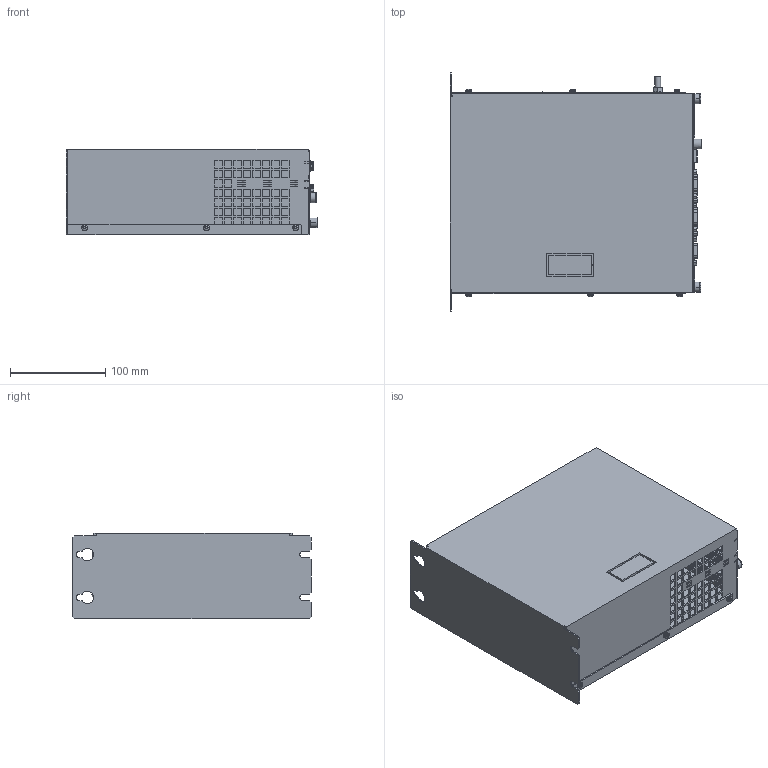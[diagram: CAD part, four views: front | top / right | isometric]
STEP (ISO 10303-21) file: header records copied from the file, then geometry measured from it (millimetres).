
FILE_DESCRIPTION(('CoCreate Modeling STEP Export'),'2;1');
FILE_NAME('8070_OL_MCU_CON_MECHATROLINK.stp','2011-03-18T 9:37:09',(''),(''),'CoCreate Modeling STEP processor for AP214 (Solid Model)','CoCreate Modeling 17.0B 12-Nov-2010 (C) Parametric Technology GmbH','');
FILE_SCHEMA(('AUTOMOTIVE_DESIGN { 1 0 10303 214 1 1 1 1 }'));
Products named in the file (1): 8070_OL_MCU_MECHATROLINK
Bounding box: 264.33 x 250.3 x 90 mm (x, y, z)
Volume: 390179 mm3; surface area: 433366.5 mm2
Topology: 1 solids, 1 shells, 3479 faces, 9575 edges, 6217 vertices
Faces by surface type: plane 2614, cylinder 749, cone 68, torus 30, sphere 18
Entity records: 120636 total; most frequent: CARTESIAN_POINT 19539, ORIENTED_EDGE 19106, DIRECTION 16416, EDGE_CURVE 9553, VECTOR 7554, LINE 7554, VERTEX_POINT 6215, AXIS2_PLACEMENT_3D 4431
